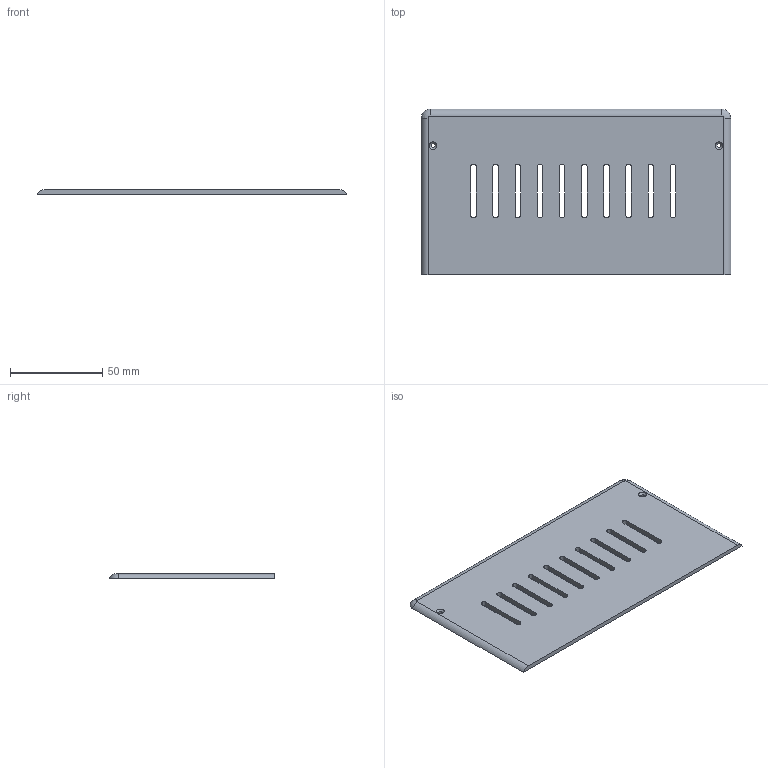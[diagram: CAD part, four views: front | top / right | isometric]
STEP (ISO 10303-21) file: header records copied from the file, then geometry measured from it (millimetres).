
FILE_DESCRIPTION(('Open CASCADE Model'),'2;1');
FILE_NAME('Open CASCADE Shape Model','2026-11-07T15:26:02',('Author'),( 'Open CASCADE'),'Open CASCADE STEP processor 7.9','Open CASCADE 7.9' ,'Unknown');
FILE_SCHEMA(('AUTOMOTIVE_DESIGN { 1 0 10303 214 1 1 1 1 }'));
Length unit declared in the file: millimetre
Products named in the file (1): Open CASCADE STEP translator 7.9 17
Bounding box: 167.42 x 89.51 x 2.5 mm (x, y, z)
Volume: 34406 mm3; surface area: 30565 mm2
Topology: 1 solids, 1 shells, 92 faces, 268 edges, 178 vertices
Faces by surface type: cylinder 45, plane 43, revolution 2, cone 2
Full cylindrical faces by diameter (mm): 2.3 x2
Entity records: 7189 total; most frequent: CARTESIAN_POINT 2035, DIRECTION 893, ORIENTED_EDGE 536, PCURVE 536, DEFINITIONAL_REPRESENTATION 536, LINE 438, VECTOR 438, EDGE_CURVE 268
